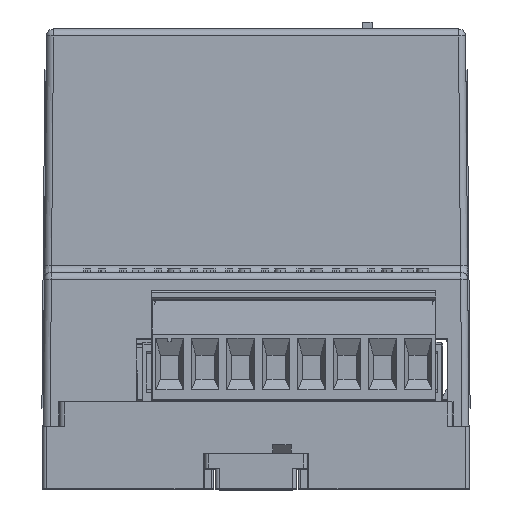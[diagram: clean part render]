
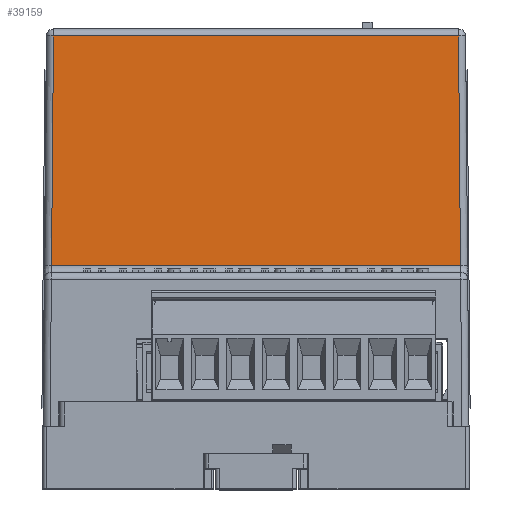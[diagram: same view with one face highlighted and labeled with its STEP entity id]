
A CAD part, top view. The second image highlights one B-rep face of the part: STEP entity #39159.
In plain terms, the highlighted planar face has unit normal (0, 0.009, 1).
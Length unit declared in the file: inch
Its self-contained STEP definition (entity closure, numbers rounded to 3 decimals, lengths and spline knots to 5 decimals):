
#9191 = ORIENTED_EDGE ( 'NONE', *, *, #102683, .T. ) ;
#13226 = EDGE_CURVE ( 'NONE', #108452, #232278, #193620, .T. ) ;
#15168 = DIRECTION ( 'NONE',  ( 0., -0.009, -1. ) ) ;
#39159 = ADVANCED_FACE ( 'NONE', ( #134551 ), #58236, .F. ) ;
#52190 = LINE ( 'NONE', #73858, #165721 ) ;
#58236 = PLANE ( 'NONE',  #135235 ) ;
#63746 = CARTESIAN_POINT ( 'NONE',  ( 1.12283, 2.51215, 1.16966 ) ) ;
#73858 = CARTESIAN_POINT ( 'NONE',  ( -1.1811, 2.51215, 1.16966 ) ) ;
#78111 = CARTESIAN_POINT ( 'NONE',  ( -1.1225, 2.55067, 1.16932 ) ) ;
#78367 = CARTESIAN_POINT ( 'NONE',  ( -1.13394, 1.23981, 1.18076 ) ) ;
#102683 = EDGE_CURVE ( 'NONE', #239854, #108452, #177652, .T. ) ;
#103488 = CARTESIAN_POINT ( 'NONE',  ( -1.12283, 2.51215, 1.16966 ) ) ;
#105117 = CARTESIAN_POINT ( 'NONE',  ( 1.13394, 1.23981, 1.18076 ) ) ;
#105408 = LINE ( 'NONE', #280773, #274010 ) ;
#108452 = VERTEX_POINT ( 'NONE', #78367 ) ;
#121377 = ORIENTED_EDGE ( 'NONE', *, *, #165285, .T. ) ;
#134551 = FACE_OUTER_BOUND ( 'NONE', #267202, .T. ) ;
#135235 = AXIS2_PLACEMENT_3D ( 'NONE', #288331, #15168, #266696 ) ;
#159341 = DIRECTION ( 'NONE',  ( -0.009, -1., 0.009 ) ) ;
#165285 = EDGE_CURVE ( 'NONE', #256295, #239854, #52190, .T. ) ;
#165721 = VECTOR ( 'NONE', #250909, 39.37008 ) ;
#166396 = VECTOR ( 'NONE', #243077, 39.37008 ) ;
#177652 = LINE ( 'NONE', #78111, #284182 ) ;
#183284 = DIRECTION ( 'NONE',  ( -0.009, 1., -0.009 ) ) ;
#193620 = LINE ( 'NONE', #244702, #166396 ) ;
#231235 = ORIENTED_EDGE ( 'NONE', *, *, #249423, .T. ) ;
#232278 = VERTEX_POINT ( 'NONE', #105117 ) ;
#239854 = VERTEX_POINT ( 'NONE', #103488 ) ;
#243077 = DIRECTION ( 'NONE',  ( 1., 0., 0. ) ) ;
#244702 = CARTESIAN_POINT ( 'NONE',  ( 1.17365, 1.23981, 1.18076 ) ) ;
#249423 = EDGE_CURVE ( 'NONE', #232278, #256295, #105408, .T. ) ;
#250909 = DIRECTION ( 'NONE',  ( -1., 0., 0. ) ) ;
#256295 = VERTEX_POINT ( 'NONE', #63746 ) ;
#266696 = DIRECTION ( 'NONE',  ( 0., 1., -0.009 ) ) ;
#267202 = EDGE_LOOP ( 'NONE', ( #231235, #121377, #9191, #275740 ) ) ;
#274010 = VECTOR ( 'NONE', #183284, 39.37008 ) ;
#275740 = ORIENTED_EDGE ( 'NONE', *, *, #13226, .T. ) ;
#280773 = CARTESIAN_POINT ( 'NONE',  ( 1.12232, 2.57128, 1.16914 ) ) ;
#284182 = VECTOR ( 'NONE', #159341, 39.37008 ) ;
#288331 = CARTESIAN_POINT ( 'NONE',  ( -1.1811, 2.55118, 1.16932 ) ) ;
